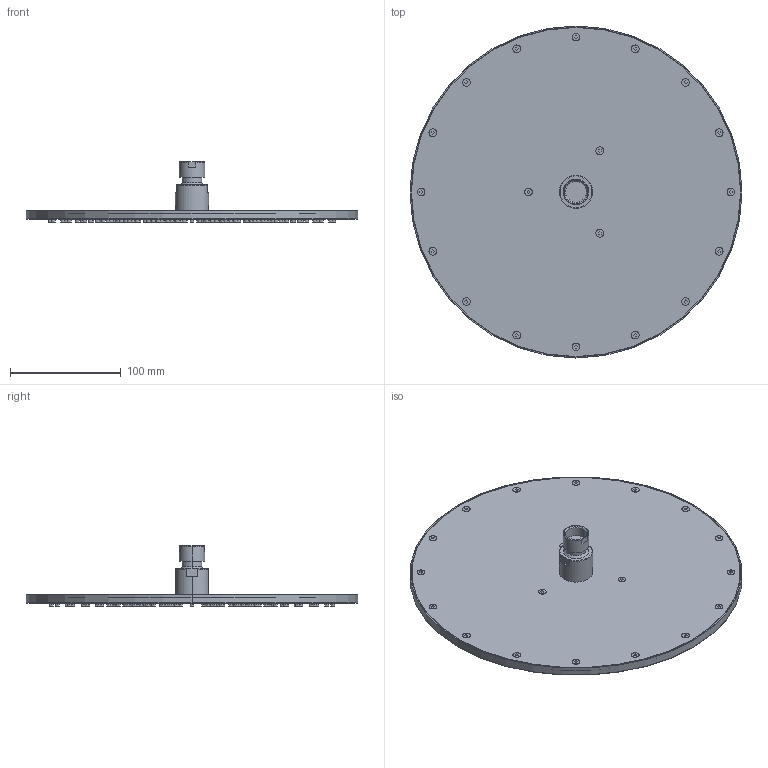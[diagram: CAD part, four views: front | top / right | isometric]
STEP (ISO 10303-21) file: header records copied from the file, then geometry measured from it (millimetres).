
FILE_DESCRIPTION (( 'STEP AP203' ), '1' );
FILE_NAME ('SFT30.STEP', '2024-03-04T15:43:49', ( '' ), ( '' ), 'SwSTEP 2.0', 'SolidWorks 2023', '' );
FILE_SCHEMA (( 'CONFIG_CONTROL_DESIGN' ));
Length unit declared in the file: millimetre
Products named in the file (1): SFT30
Bounding box: 300 x 300 x 54.5 mm (x, y, z)
Volume: 590141.1 mm3; surface area: 170874.3 mm2
Topology: 1 solids, 1 shells, 2015 faces, 4114 edges, 2739 vertices
Faces by surface type: cylinder 1242, plane 762, torus 7, bspline 2, cone 2
Entity records: 54487 total; most frequent: DIRECTION 10636, CARTESIAN_POINT 9125, ORIENTED_EDGE 8228, AXIS2_PLACEMENT_3D 4518, EDGE_CURVE 4114, VERTEX_POINT 2739, EDGE_LOOP 2653, CIRCLE 2504
